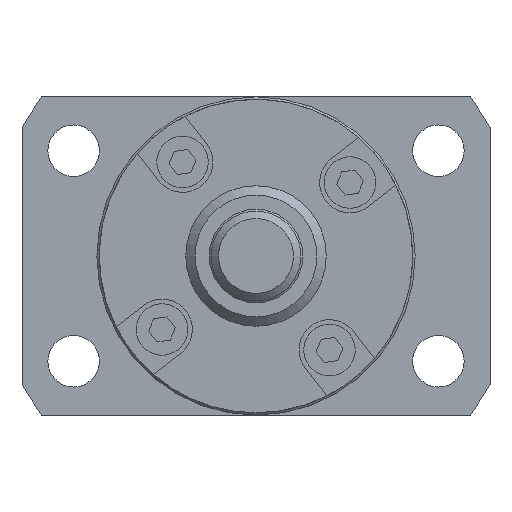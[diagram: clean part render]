
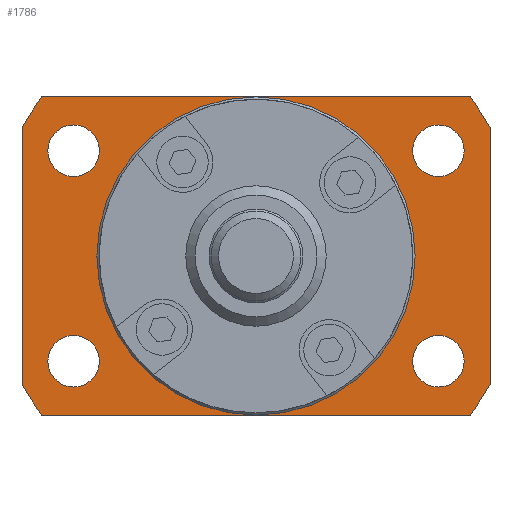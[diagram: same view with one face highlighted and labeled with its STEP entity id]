
A CAD part, left-side view. The second image highlights one B-rep face of the part: STEP entity #1786.
In plain terms, the highlighted planar face has unit normal (-1, 0, 0).
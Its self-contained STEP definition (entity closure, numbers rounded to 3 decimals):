
#110=CIRCLE('',#1969,2.75);
#111=CIRCLE('',#1970,2.75);
#112=CIRCLE('',#1971,2.75);
#113=CIRCLE('',#1972,2.75);
#114=CIRCLE('',#1973,16.75);
#115=CIRCLE('',#1974,28.5);
#116=CIRCLE('',#1975,28.5);
#117=CIRCLE('',#1976,28.5);
#118=CIRCLE('',#1977,28.5);
#280=ORIENTED_EDGE('',*,*,#696,.T.);
#281=ORIENTED_EDGE('',*,*,#697,.T.);
#282=ORIENTED_EDGE('',*,*,#698,.T.);
#283=ORIENTED_EDGE('',*,*,#699,.T.);
#284=ORIENTED_EDGE('',*,*,#700,.T.);
#285=ORIENTED_EDGE('',*,*,#701,.F.);
#286=ORIENTED_EDGE('',*,*,#702,.F.);
#287=ORIENTED_EDGE('',*,*,#703,.F.);
#288=ORIENTED_EDGE('',*,*,#704,.F.);
#289=ORIENTED_EDGE('',*,*,#705,.F.);
#290=ORIENTED_EDGE('',*,*,#706,.F.);
#291=ORIENTED_EDGE('',*,*,#707,.F.);
#292=ORIENTED_EDGE('',*,*,#708,.F.);
#696=EDGE_CURVE('',#916,#916,#110,.T.);
#697=EDGE_CURVE('',#917,#917,#111,.T.);
#698=EDGE_CURVE('',#918,#918,#112,.T.);
#699=EDGE_CURVE('',#919,#919,#113,.T.);
#700=EDGE_CURVE('',#920,#920,#114,.T.);
#701=EDGE_CURVE('',#921,#922,#115,.T.);
#702=EDGE_CURVE('',#923,#921,#1059,.T.);
#703=EDGE_CURVE('',#924,#923,#116,.T.);
#704=EDGE_CURVE('',#925,#924,#1060,.T.);
#705=EDGE_CURVE('',#926,#925,#117,.T.);
#706=EDGE_CURVE('',#927,#926,#1061,.T.);
#707=EDGE_CURVE('',#928,#927,#118,.T.);
#708=EDGE_CURVE('',#922,#928,#1062,.T.);
#916=VERTEX_POINT('',#2865);
#917=VERTEX_POINT('',#2867);
#918=VERTEX_POINT('',#2869);
#919=VERTEX_POINT('',#2871);
#920=VERTEX_POINT('',#2873);
#921=VERTEX_POINT('',#2875);
#922=VERTEX_POINT('',#2876);
#923=VERTEX_POINT('',#2878);
#924=VERTEX_POINT('',#2880);
#925=VERTEX_POINT('',#2882);
#926=VERTEX_POINT('',#2884);
#927=VERTEX_POINT('',#2886);
#928=VERTEX_POINT('',#2888);
#1059=LINE('',#2877,#1193);
#1060=LINE('',#2881,#1194);
#1061=LINE('',#2885,#1195);
#1062=LINE('',#2889,#1196);
#1193=VECTOR('',#2306,1000.);
#1194=VECTOR('',#2309,1000.);
#1195=VECTOR('',#2312,1000.);
#1196=VECTOR('',#2315,1000.);
#1352=EDGE_LOOP('',(#280));
#1353=EDGE_LOOP('',(#281));
#1354=EDGE_LOOP('',(#282));
#1355=EDGE_LOOP('',(#283));
#1356=EDGE_LOOP('',(#284));
#1357=EDGE_LOOP('',(#285,#286,#287,#288,#289,#290,#291,#292));
#1544=FACE_BOUND('',#1352,.T.);
#1545=FACE_BOUND('',#1353,.T.);
#1546=FACE_BOUND('',#1354,.T.);
#1547=FACE_BOUND('',#1355,.T.);
#1548=FACE_BOUND('',#1356,.T.);
#1549=FACE_BOUND('',#1357,.T.);
#1695=PLANE('',#1968);
#1786=ADVANCED_FACE('',(#1544,#1545,#1546,#1547,#1548,#1549),#1695,.F.);
#1968=AXIS2_PLACEMENT_3D('',#2863,#2292,#2293);
#1969=AXIS2_PLACEMENT_3D('',#2864,#2294,#2295);
#1970=AXIS2_PLACEMENT_3D('',#2866,#2296,#2297);
#1971=AXIS2_PLACEMENT_3D('',#2868,#2298,#2299);
#1972=AXIS2_PLACEMENT_3D('',#2870,#2300,#2301);
#1973=AXIS2_PLACEMENT_3D('',#2872,#2302,#2303);
#1974=AXIS2_PLACEMENT_3D('',#2874,#2304,#2305);
#1975=AXIS2_PLACEMENT_3D('',#2879,#2307,#2308);
#1976=AXIS2_PLACEMENT_3D('',#2883,#2310,#2311);
#1977=AXIS2_PLACEMENT_3D('',#2887,#2313,#2314);
#2292=DIRECTION('',(1.,0.,0.));
#2293=DIRECTION('',(0.,0.,-1.));
#2294=DIRECTION('',(1.,0.,0.));
#2295=DIRECTION('',(0.,0.,-1.));
#2296=DIRECTION('',(1.,0.,0.));
#2297=DIRECTION('',(0.,0.,-1.));
#2298=DIRECTION('',(1.,0.,0.));
#2299=DIRECTION('',(0.,0.,-1.));
#2300=DIRECTION('',(1.,0.,0.));
#2301=DIRECTION('',(0.,0.,-1.));
#2302=DIRECTION('',(1.,0.,0.));
#2303=DIRECTION('',(0.,0.,-1.));
#2304=DIRECTION('',(1.,0.,0.));
#2305=DIRECTION('',(0.,0.,-1.));
#2306=DIRECTION('',(0.,-1.,0.));
#2307=DIRECTION('',(1.,0.,0.));
#2308=DIRECTION('',(0.,0.,-1.));
#2309=DIRECTION('',(0.,0.,1.));
#2310=DIRECTION('',(1.,0.,0.));
#2311=DIRECTION('',(0.,0.,-1.));
#2312=DIRECTION('',(0.,1.,0.));
#2313=DIRECTION('',(1.,0.,0.));
#2314=DIRECTION('',(0.,0.,-1.));
#2315=DIRECTION('',(0.,0.,-1.));
#2863=CARTESIAN_POINT('',(16.,16.75,0.));
#2864=CARTESIAN_POINT('',(16.,19.486,-11.25));
#2865=CARTESIAN_POINT('',(16.,19.486,-14.));
#2866=CARTESIAN_POINT('',(16.,-19.486,11.25));
#2867=CARTESIAN_POINT('',(16.,-19.486,8.5));
#2868=CARTESIAN_POINT('',(16.,-19.486,-11.25));
#2869=CARTESIAN_POINT('',(16.,-19.486,-14.));
#2870=CARTESIAN_POINT('',(16.,19.486,11.25));
#2871=CARTESIAN_POINT('',(16.,19.486,8.5));
#2872=CARTESIAN_POINT('',(16.,0.,0.));
#2873=CARTESIAN_POINT('',(16.,0.,-16.75));
#2874=CARTESIAN_POINT('',(16.,0.,0.));
#2875=CARTESIAN_POINT('',(16.,-22.875,17.));
#2876=CARTESIAN_POINT('',(16.,-25.,13.684));
#2877=CARTESIAN_POINT('',(16.,22.875,17.));
#2878=CARTESIAN_POINT('',(16.,22.875,17.));
#2879=CARTESIAN_POINT('',(16.,0.,0.));
#2880=CARTESIAN_POINT('',(16.,25.,13.684));
#2881=CARTESIAN_POINT('',(16.,25.,-13.684));
#2882=CARTESIAN_POINT('',(16.,25.,-13.684));
#2883=CARTESIAN_POINT('',(16.,0.,0.));
#2884=CARTESIAN_POINT('',(16.,22.875,-17.));
#2885=CARTESIAN_POINT('',(16.,-22.875,-17.));
#2886=CARTESIAN_POINT('',(16.,-22.875,-17.));
#2887=CARTESIAN_POINT('',(16.,0.,0.));
#2888=CARTESIAN_POINT('',(16.,-25.,-13.684));
#2889=CARTESIAN_POINT('',(16.,-25.,13.684));
